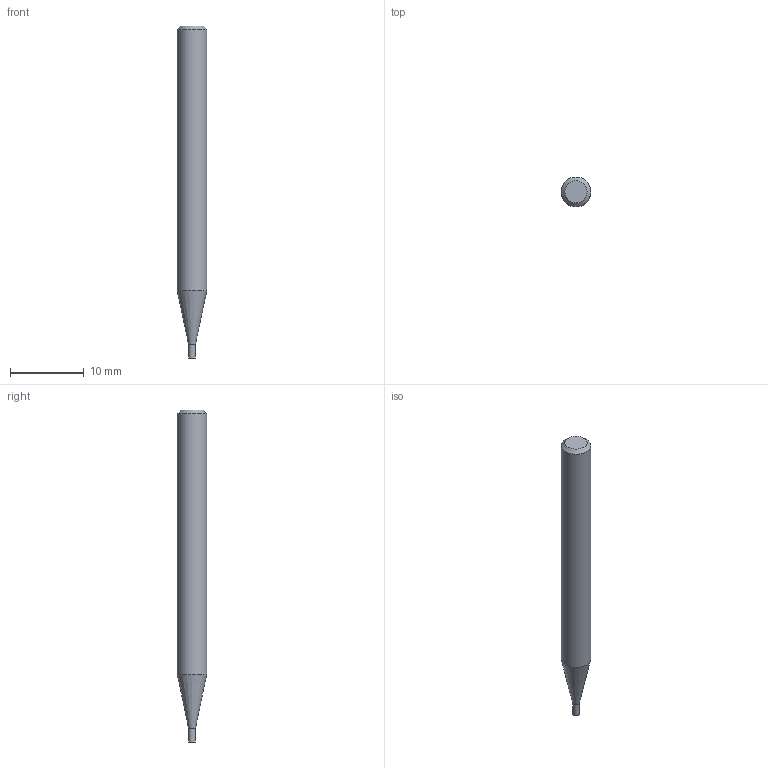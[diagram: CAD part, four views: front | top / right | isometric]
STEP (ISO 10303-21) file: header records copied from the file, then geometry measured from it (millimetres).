
FILE_DESCRIPTION((''),'2;1');
FILE_NAME('C:\Users\nsx150\AppData\Local\Temp\Mastercam 2021\E36A1X9CCL\TEMP.step','2023-04-21T15:12:11',(''),(''),'STEP Write','Mastercam 2021 ... CNC Software, Inc.','');
FILE_SCHEMA(('AUTOMOTIVE_DESIGN'));
Length unit declared in the file: millimetre
Products named in the file (1): None
Bounding box: 4 x 4 x 45 mm (x, y, z)
Volume: 489.9 mm3; surface area: 524.2 mm2
Topology: 2 solids, 2 shells, 8 faces, 10 edges, 6 vertices
Faces by surface type: plane 4, cylinder 2, cone 2
Full cylindrical faces by diameter (mm): 0.9 x1, 4 x1
Entity records: 190 total; most frequent: DIRECTION 32, CARTESIAN_POINT 22, AXIS2_PLACEMENT_3D 16, ORIENTED_EDGE 12, EDGE_LOOP 12, STYLED_ITEM 11, ADVANCED_FACE 8, VERTEX_POINT 6
